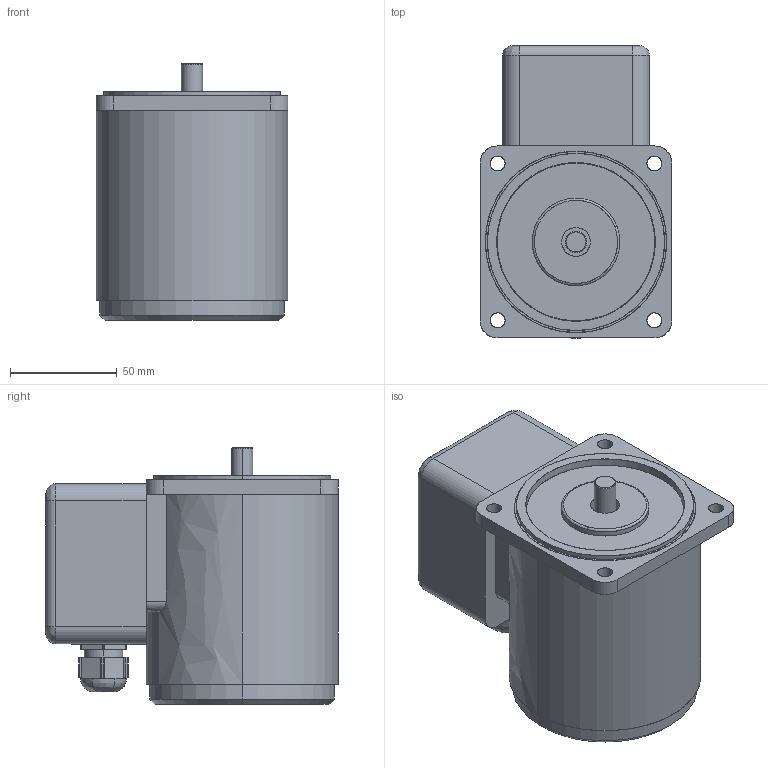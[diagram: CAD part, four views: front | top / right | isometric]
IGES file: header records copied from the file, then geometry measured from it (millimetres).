
Start section: SolidWorks IGES file using analytic representation for surfaces
Bounding box: 90 x 137 x 120.5 mm (x, y, z)
Surface area: 115788.5 mm2 (no closed solid volume)
Topology: 0 solids, 0 shells, 201 faces, 3532 edges, 3532 vertices
Faces by surface type: bspline 113, revolution 88
